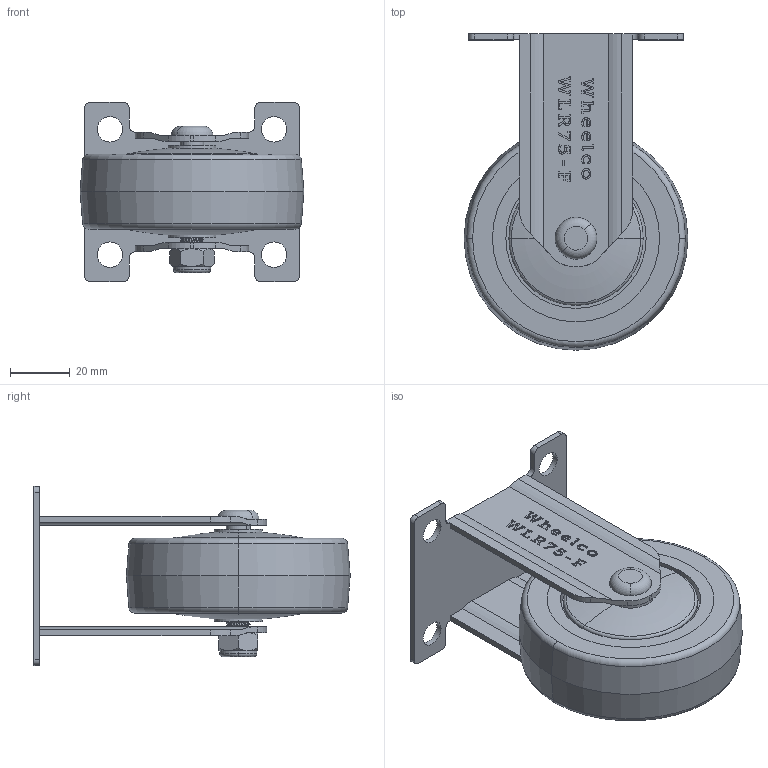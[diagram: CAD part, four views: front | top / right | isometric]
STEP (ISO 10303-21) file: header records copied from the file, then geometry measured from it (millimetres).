
FILE_DESCRIPTION (( 'STEP AP214' ), '1' );
FILE_NAME ('WLR75-F.step', '2024-01-15T01:48:57', ( '' ), ( '' ), 'SwSTEP 2.0', 'SolidWorks 2022', '' );
FILE_SCHEMA (( 'AUTOMOTIVE_DESIGN' ));
Length unit declared in the file: millimetre
Products named in the file (5): WLR75; WL75-F; WL bolt 50mm-8mm dia; WLR75-F; M8Nyloc
Assembly tree (4 placements, depth 2):
  WLR75-F
    WL75-F
    M8Nyloc
    WL bolt 50mm-8mm dia
    WLR75
Bounding box: 75 x 106 x 60 mm (x, y, z)
Volume: 128214.9 mm3; surface area: 37778.2 mm2
Topology: 4 solids, 4 shells, 471 faces, 1277 edges, 839 vertices
Faces by surface type: plane 243, cylinder 109, bspline 83, cone 18, torus 16, sphere 2
Entity records: 22523 total; most frequent: CARTESIAN_POINT 10824, ORIENTED_EDGE 2550, DIRECTION 1973, EDGE_CURVE 1275, VERTEX_POINT 839, VECTOR 815, LINE 815, AXIS2_PLACEMENT_3D 579
